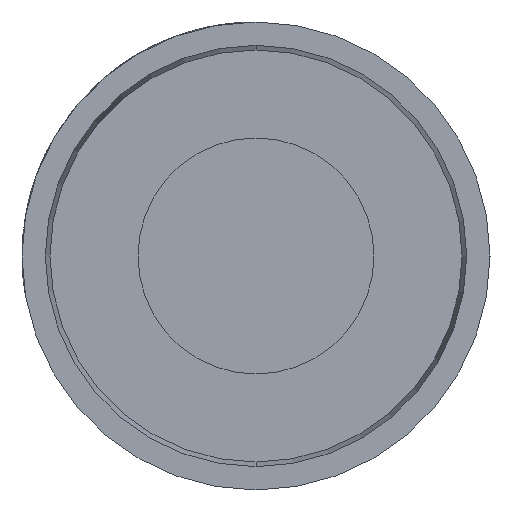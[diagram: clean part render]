
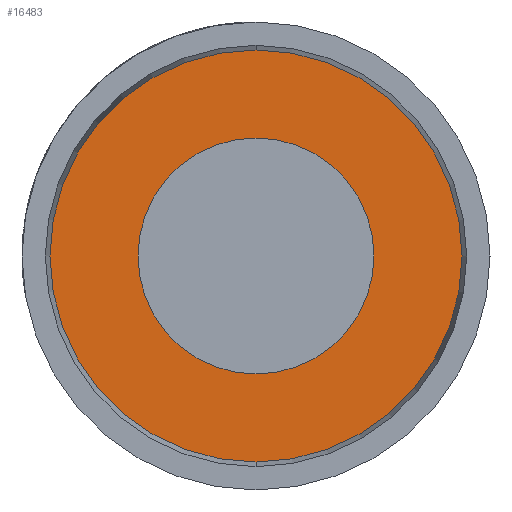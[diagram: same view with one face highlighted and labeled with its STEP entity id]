
A CAD part, left-side view. The second image highlights one B-rep face of the part: STEP entity #16483.
In plain terms, the highlighted planar face has unit normal (-1, 0, 0).
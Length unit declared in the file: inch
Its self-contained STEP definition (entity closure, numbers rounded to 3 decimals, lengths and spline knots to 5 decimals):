
#537 = EDGE_LOOP ( 'NONE', ( #25559, #2381 ) ) ;
#806 = DIRECTION ( 'NONE',  ( 0., 0., 1. ) ) ;
#1115 = DIRECTION ( 'NONE',  ( -1., 0., 0. ) ) ;
#1185 = EDGE_CURVE ( 'NONE', #12471, #17061, #10531, .T. ) ;
#2381 = ORIENTED_EDGE ( 'NONE', *, *, #7866, .F. ) ;
#2687 = CARTESIAN_POINT ( 'NONE',  ( 0., 0., 0. ) ) ;
#3122 = CARTESIAN_POINT ( 'NONE',  ( 0., 0., 0. ) ) ;
#5116 = DIRECTION ( 'NONE',  ( 0., 0., 1. ) ) ;
#5144 = CARTESIAN_POINT ( 'NONE',  ( 0., 0., 0. ) ) ;
#5337 = CARTESIAN_POINT ( 'NONE',  ( 0., 0., -0.04725 ) ) ;
#5469 = CIRCLE ( 'NONE', #16849, 0.0825 ) ;
#6357 = CIRCLE ( 'NONE', #27669, 0.04725 ) ;
#7130 = DIRECTION ( 'NONE',  ( 0., 0., -1. ) ) ;
#7221 = EDGE_LOOP ( 'NONE', ( #22168, #21441 ) ) ;
#7353 = FACE_OUTER_BOUND ( 'NONE', #537, .T. ) ;
#7594 = VERTEX_POINT ( 'NONE', #12804 ) ;
#7866 = EDGE_CURVE ( 'NONE', #7594, #8920, #5469, .T. ) ;
#7958 = CARTESIAN_POINT ( 'NONE',  ( 0., 0., 0.04725 ) ) ;
#8920 = VERTEX_POINT ( 'NONE', #22357 ) ;
#9467 = DIRECTION ( 'NONE',  ( 1., 0., 0. ) ) ;
#10531 = CIRCLE ( 'NONE', #10970, 0.04725 ) ;
#10970 = AXIS2_PLACEMENT_3D ( 'NONE', #2687, #26418, #5116 ) ;
#12125 = DIRECTION ( 'NONE',  ( 0., 0., -1. ) ) ;
#12471 = VERTEX_POINT ( 'NONE', #7958 ) ;
#12804 = CARTESIAN_POINT ( 'NONE',  ( 0., 0., 0.0825 ) ) ;
#14622 = DIRECTION ( 'NONE',  ( 1., 0., 0. ) ) ;
#15879 = EDGE_CURVE ( 'NONE', #8920, #7594, #27561, .T. ) ;
#16483 = ADVANCED_FACE ( 'NONE', ( #29075, #7353 ), #16775, .F. ) ;
#16775 = PLANE ( 'NONE',  #21175 ) ;
#16849 = AXIS2_PLACEMENT_3D ( 'NONE', #29065, #23964, #12125 ) ;
#17061 = VERTEX_POINT ( 'NONE', #5337 ) ;
#21132 = AXIS2_PLACEMENT_3D ( 'NONE', #28691, #9467, #7130 ) ;
#21175 = AXIS2_PLACEMENT_3D ( 'NONE', #5144, #14622, #24131 ) ;
#21441 = ORIENTED_EDGE ( 'NONE', *, *, #29017, .F. ) ;
#22168 = ORIENTED_EDGE ( 'NONE', *, *, #1185, .F. ) ;
#22357 = CARTESIAN_POINT ( 'NONE',  ( 0., 0., -0.0825 ) ) ;
#23964 = DIRECTION ( 'NONE',  ( 1., 0., 0. ) ) ;
#24131 = DIRECTION ( 'NONE',  ( 0., 0., -1. ) ) ;
#25559 = ORIENTED_EDGE ( 'NONE', *, *, #15879, .F. ) ;
#26418 = DIRECTION ( 'NONE',  ( -1., 0., 0. ) ) ;
#27561 = CIRCLE ( 'NONE', #21132, 0.0825 ) ;
#27669 = AXIS2_PLACEMENT_3D ( 'NONE', #3122, #1115, #806 ) ;
#28691 = CARTESIAN_POINT ( 'NONE',  ( 0., 0., 0. ) ) ;
#29017 = EDGE_CURVE ( 'NONE', #17061, #12471, #6357, .T. ) ;
#29065 = CARTESIAN_POINT ( 'NONE',  ( 0., 0., 0. ) ) ;
#29075 = FACE_BOUND ( 'NONE', #7221, .T. ) ;
